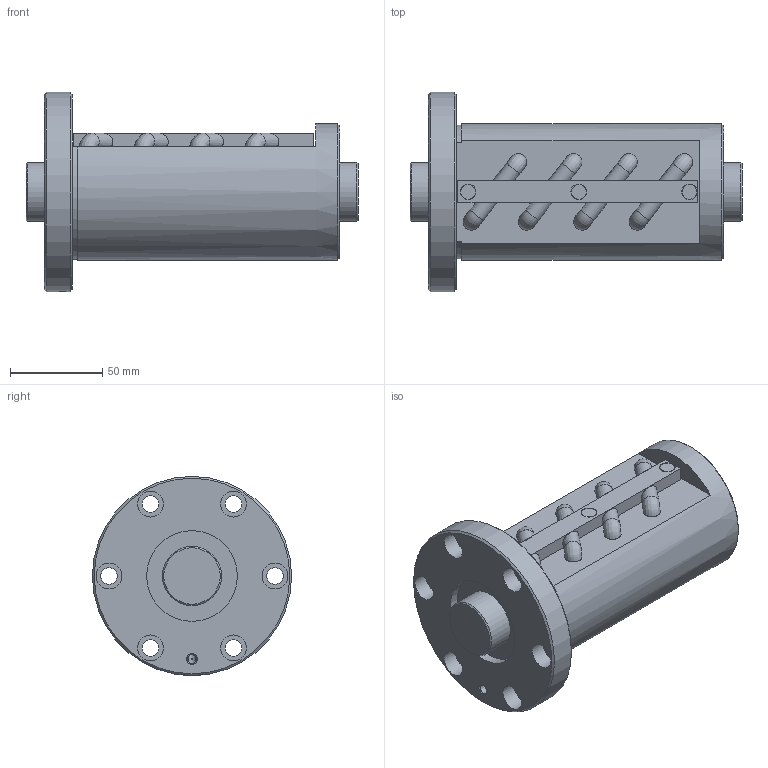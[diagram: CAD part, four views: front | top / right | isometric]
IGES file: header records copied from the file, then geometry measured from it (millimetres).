
Start section: Data from Parasolid IGES Translator 26.0.171, Copyright(c) 2006 Siemens PLM Software. All Rights Reserved.
Global section: file name: BIF3210V-10RRG0+180LC0_000.igs; native system: By Siemens PLM Incorporated; preprocessor: XPlus GENERIC/IGES 26.0.171; author: Noname; organization: Noname; date: 20240715.082309; units: millimetre
Bounding box: 180 x 108 x 108 mm (x, y, z)
Surface area: 98310.5 mm2 (no closed solid volume)
Topology: 0 solids, 0 shells, 115 faces, 547 edges, 502 vertices
Faces by surface type: revolution 62, extrusion 53
